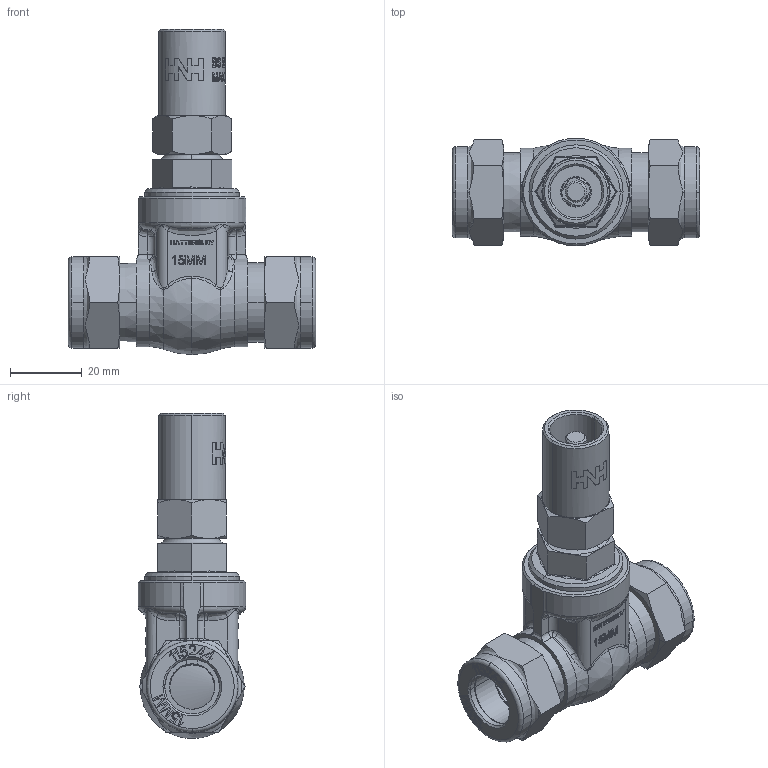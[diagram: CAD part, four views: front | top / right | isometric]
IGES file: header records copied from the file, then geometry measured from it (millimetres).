
Global section: file name: No Iges File Name specified; native system: AutoDesk Inventor R12.0; preprocessor: AutoDesk Inventor Iges Exporter R12.0; date: 20110308.161921; units: millimetre
Bounding box: 69 x 30 x 90.49 mm (x, y, z)
Volume: 47360.1 mm3; surface area: 20527 mm2
Topology: 1 solids, 2 shells, 1363 faces, 3635 edges, 2368 vertices
Faces by surface type: plane 719, bspline 441, revolution 74, cylinder 65, cone 50, torus 14
